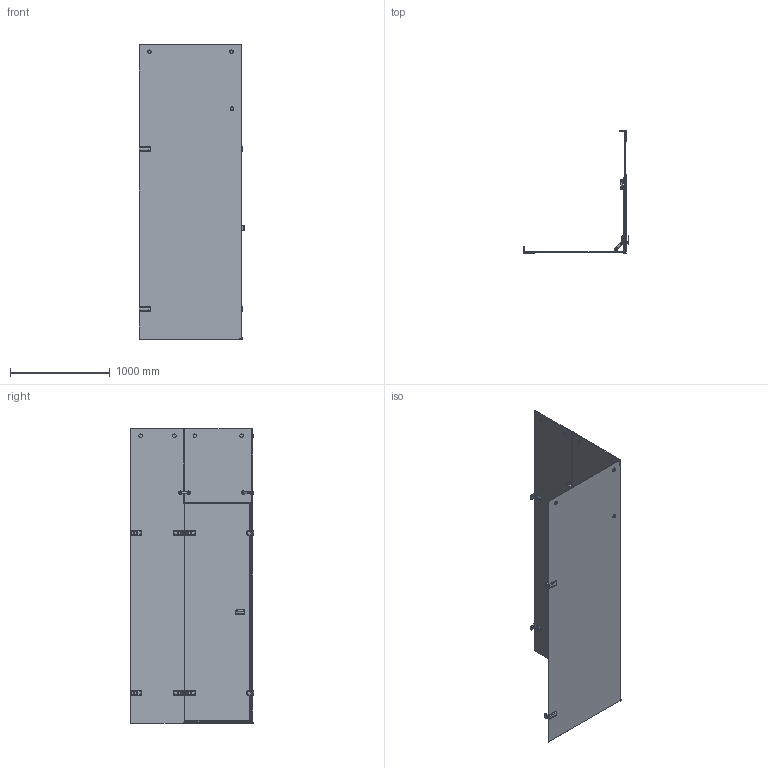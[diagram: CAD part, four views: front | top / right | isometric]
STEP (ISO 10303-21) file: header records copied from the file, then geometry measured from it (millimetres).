
FILE_DESCRIPTION(/* description */ (''),/* implementation_level */ '2;1');
FILE_NAME(/* name */ 'E:\Работа\Сергей\Душевые кабинки\! Работа\!!!\TREND SQUARE GK-884ZF\TREND SQUARE GK-884ZF правая модель\TREND SQUARE GK-884ZF ПРАВАЯ-3D.stp',/* time_stamp */ '2017-12-24T15:10:15+03:00',/* author */ ('PC'),/* organization */ (''),/* preprocessor_version */ 'ST-DEVELOPER v15.2',/* originating_system */ 'Autodesk Inventor 2014',/* authorisation */ '');
FILE_SCHEMA (('AUTOMOTIVE_DESIGN { 1 0 10303 214 3 1 1 }'));
Products named in the file (1): TREND SQUARE GK-884ZF ПРАВАЯ-
3D
Bounding box: 1056.48 x 1231.98 x 2946 mm (x, y, z)
Volume: 50772770.9 mm3; surface area: 13753939.5 mm2
Topology: 9 solids, 9 shells, 1707 faces, 4377 edges, 2696 vertices
Faces by surface type: plane 954, cylinder 450, bspline 162, cone 64, torus 59, sphere 18
Full cylindrical faces by diameter (mm): 3 x20, 4.134 x4, 5.2 x2, 6 x2, 8 x4, 9 x8, 11 x2, 13 x2, 16 x2, 20 x2, 21 x4, 35 x20, 36 x20, 40 x4
Entity records: 69842 total; most frequent: CARTESIAN_POINT 28289, ORIENTED_EDGE 8226, DIRECTION 8079, EDGE_CURVE 4113, AXIS2_PLACEMENT_3D 2827, VERTEX_POINT 2654, LINE 2425, VECTOR 2425
